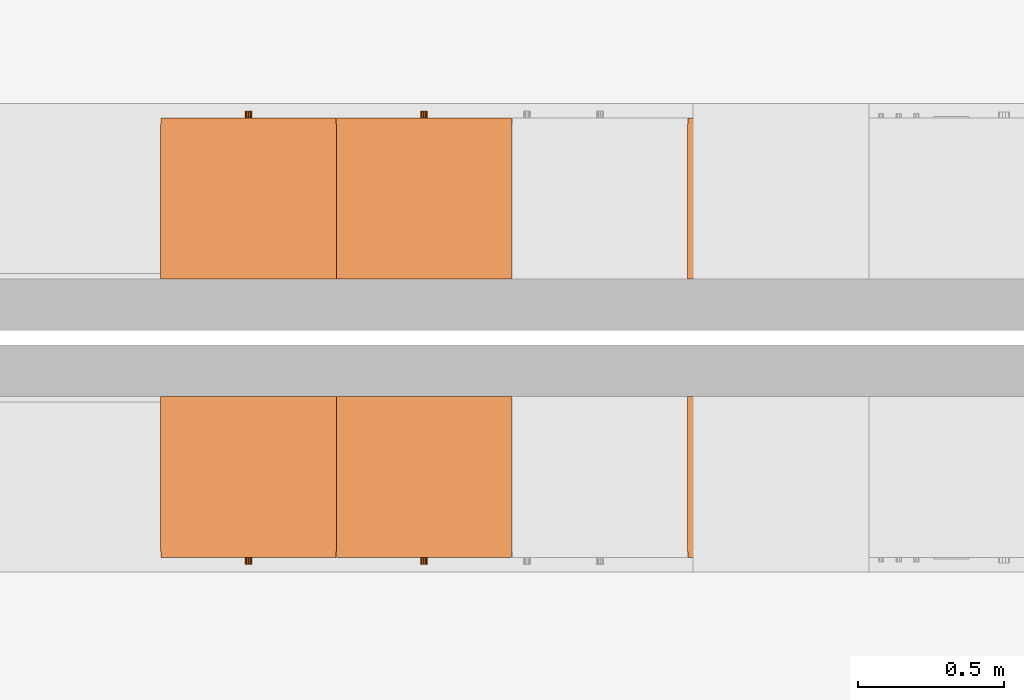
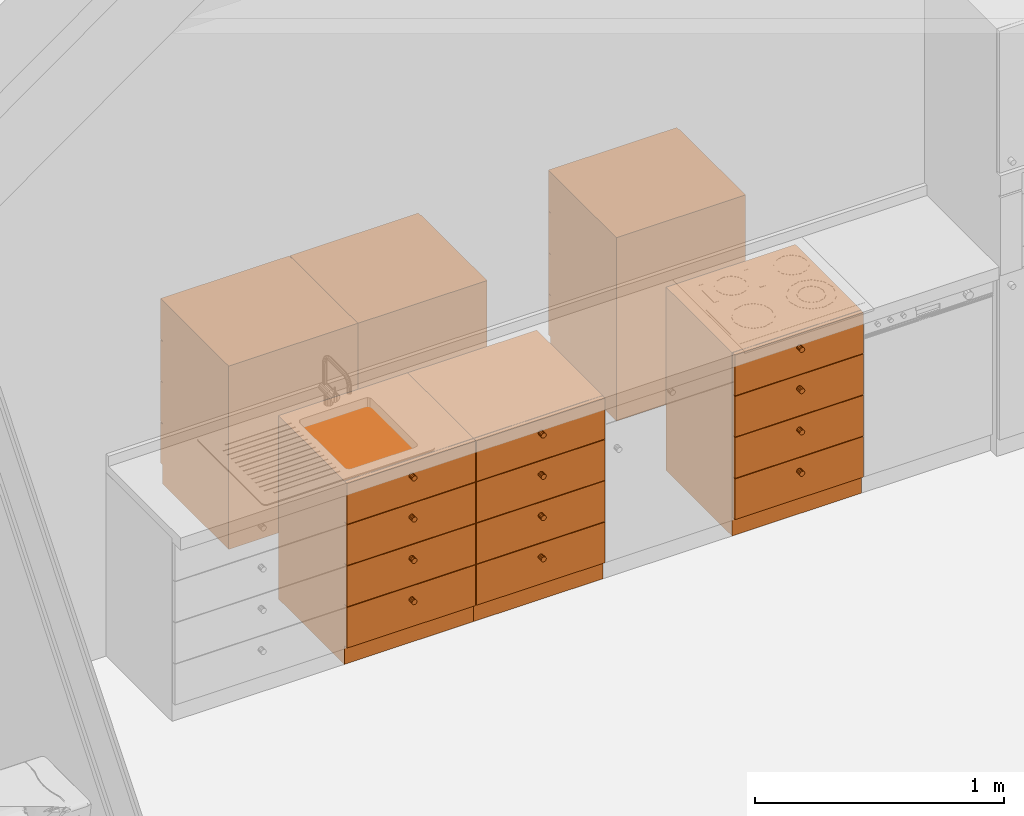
# One storey, part 14 of 28: 6 proxies.
"""IFC4 building model written with IfcOpenShell, lengths in metres."""

import ifcopenshell
import ifcopenshell.guid

model = None  # the IFC model being written
_history = None  # IfcOwnerHistory: only IFC2X3 demands one
_inside = {}  # id of a spatial element -> (the spatial element, [elements in it])
_under = {}  # id of a project, library or spatial element -> (it, [spatial elements below it])
_declared = {}  # id of a project -> (the project, [libraries it declares])
_typed = {}  # id of a type object -> (the type object, [elements of that type])
_made_of = {}  # id of a material, layer set ... -> (it, [elements and type objects made of it])


def new_model(schema):
    """Start an empty IFC model of exactly this schema.

    Asked for "IFC4X3", IfcOpenShell would pick the latest addendum, in which some entities
    have other attributes; the version numbers below select the first issue.
    IFC2X3 requires an IfcOwnerHistory on every rooted entity: one is made here for all.
    """
    global model, _history
    if schema == "IFC4X3":
        model = ifcopenshell.file(schema_version=(4, 3, 0, 0))
    else:
        model = ifcopenshell.file(schema=schema)
    _inside.clear()
    _under.clear()
    _declared.clear()
    _typed.clear()
    _made_of.clear()
    _history = None
    if model.schema == "IFC2X3":
        org = make("IfcOrganization", Name="unknown")
        user = make(
            "IfcPersonAndOrganization",
            ThePerson=make("IfcPerson", FamilyName="unknown"),
            TheOrganization=org,
        )
        app = make(
            "IfcApplication",
            ApplicationDeveloper=org,
            Version="unknown",
            ApplicationFullName="unknown",
            ApplicationIdentifier="unknown",
        )
        _history = make(
            "IfcOwnerHistory",
            OwningUser=user,
            OwningApplication=app,
            ChangeAction="ADDED",
            CreationDate=0,
        )
    return model


def make(cls, **values):
    """One entity of the class cls with the attributes given. An attribute that is None is left unset."""
    return model.create_entity(
        cls, **{name: value for name, value in values.items() if value is not None}
    )


def entity(cls, *values):
    """Any entity or typed value of the class cls, its attributes in the order of the schema. None: left unset."""
    e = model.create_entity(cls)
    for i, value in enumerate(values):
        if value is not None:
            e[i] = value
    return e


def rooted(cls, **values):
    """An entity with a GlobalId (a new one), such as an element, a storey or a relation."""
    return make(cls, GlobalId=ifcopenshell.guid.new(), OwnerHistory=_history, **values)


def si_unit(unit_type, name, prefix=None):
    """IfcSIUnit, for example si_unit("LENGTHUNIT", "METRE", prefix="MILLI")."""
    return make("IfcSIUnit", UnitType=unit_type, Prefix=prefix, Name=name)


def converted_unit(unit_type, name, factor, base, dimensions=None, offset=None):
    """IfcConversionBasedUnit, such as the inch: factor (a typed value) times the base unit."""
    return make(
        "IfcConversionBasedUnit"
        if offset is None
        else "IfcConversionBasedUnitWithOffset",
        ConversionOffset=offset,
        Dimensions=None
        if dimensions is None
        else entity("IfcDimensionalExponents", *dimensions),
        UnitType=unit_type,
        Name=name,
        ConversionFactor=make(
            "IfcMeasureWithUnit", ValueComponent=factor, UnitComponent=base
        ),
    )


def derived_unit(unit_type, elements):
    """IfcDerivedUnit: a product of units, each with its exponent."""
    return make(
        "IfcDerivedUnit",
        Elements=[
            make("IfcDerivedUnitElement", Unit=unit, Exponent=power)
            for unit, power in elements
        ],
        UnitType=unit_type,
    )


def assignment(units):
    """IfcUnitAssignment: the units of a project."""
    return None if units is None else make("IfcUnitAssignment", Units=units)


def point(xyz):
    """IfcCartesianPoint."""
    return None if xyz is None else make("IfcCartesianPoint", Coordinates=xyz)


def direction(xyz):
    """IfcDirection."""
    return None if xyz is None else make("IfcDirection", DirectionRatios=xyz)


def frame(location, z_axis=None, x_axis=None):
    """IfcAxis2Placement3D, a coordinate frame: its origin and axes. An axis left out is left unset."""
    return make(
        "IfcAxis2Placement3D",
        Location=point(location),
        Axis=direction(z_axis),
        RefDirection=direction(x_axis),
    )


def origin_with_axes():
    """The frame at (0, 0, 0) with the z axis (0, 0, 1) and the x axis (1, 0, 0) written out."""
    return frame((0.0, 0.0, 0.0), z_axis=(0.0, 0.0, 1.0), x_axis=(1.0, 0.0, 0.0))


def place(relative_to, where):
    """IfcLocalPlacement: puts the frame where relative to a parent placement (None: the world)."""
    return make(
        "IfcLocalPlacement", PlacementRelTo=relative_to, RelativePlacement=where
    )


def context(
    kind, dimensions, precision=None, world=None, true_north=None, identifier=None
):
    """IfcGeometricRepresentationContext, for example the 3D "Model" context."""
    return make(
        "IfcGeometricRepresentationContext",
        ContextIdentifier=identifier,
        ContextType=kind,
        CoordinateSpaceDimension=dimensions,
        Precision=precision,
        WorldCoordinateSystem=world,
        TrueNorth=true_north,
    )


def subcontext(parent, identifier, kind, view, scale=None):
    """IfcGeometricRepresentationSubContext, for example "Body" below "Model"."""
    return make(
        "IfcGeometricRepresentationSubContext",
        ContextIdentifier=identifier,
        ContextType=kind,
        ParentContext=parent,
        TargetScale=scale,
        TargetView=view,
    )


def project(units=None, contexts=None):
    """IfcProject with its units and contexts."""
    return rooted(
        "IfcProject",
        Name="project",
        RepresentationContexts=contexts,
        UnitsInContext=assignment(units),
    )


def spatial(cls, under=None, at=None, **own):
    """A site, building, storey or space (cls), placed at a placement, below another one or the project."""
    s = rooted(cls, ObjectPlacement=at, **own)
    if under is not None:
        _under.setdefault(under.id(), (under, []))[1].append(s)
    return s


def point_list(points):
    """IfcCartesianPointList2D or 3D."""
    cls = (
        "IfcCartesianPointList2D" if len(points[0]) == 2 else "IfcCartesianPointList3D"
    )
    return make(cls, CoordList=points)


def triangles(points, corners, closed=None, point_numbers=None):
    """IfcTriangulatedFaceSet: each triangle names its three corners, points numbered from 1."""
    return make(
        "IfcTriangulatedFaceSet",
        Coordinates=point_list(points),
        Closed=closed,
        CoordIndex=corners,
        PnIndex=point_numbers,
    )


def shape(context_of_items, identifier, shape_type, items):
    """IfcShapeRepresentation: the items that make up one representation, for example the "Body"."""
    return make(
        "IfcShapeRepresentation",
        ContextOfItems=context_of_items,
        RepresentationIdentifier=identifier,
        RepresentationType=shape_type,
        Items=items,
    )


def source(mapping_origin, context_of_items, identifier, shape_type, items):
    """IfcRepresentationMap: a shape defined once, which mapped items show again and again."""
    return make(
        "IfcRepresentationMap",
        MappingOrigin=mapping_origin,
        MappedRepresentation=shape(context_of_items, identifier, shape_type, items),
    )


def transform(
    local_origin,
    x_axis=None,
    y_axis=None,
    z_axis=None,
    scale=None,
    scale2=None,
    scale3=None,
    uniform=True,
):
    """IfcCartesianTransformationOperator3D, or its non-uniform kind. x_axis, y_axis, z_axis: its Axis1, 2, 3."""
    if uniform:
        return make(
            "IfcCartesianTransformationOperator3D",
            Axis1=direction(x_axis),
            Axis2=direction(y_axis),
            LocalOrigin=point(local_origin),
            Scale=scale,
            Axis3=direction(z_axis),
        )
    return make(
        "IfcCartesianTransformationOperator3DnonUniform",
        Axis1=direction(x_axis),
        Axis2=direction(y_axis),
        LocalOrigin=point(local_origin),
        Scale=scale,
        Axis3=direction(z_axis),
        Scale2=scale2,
        Scale3=scale3,
    )


def mapped(mapping_source, mapping_target):
    """IfcMappedItem: shows the shape of a source again, moved by a transform."""
    return make(
        "IfcMappedItem", MappingSource=mapping_source, MappingTarget=mapping_target
    )


def made_of(thing, what):
    """Note that an element or type object is made of a material, layer set ...; save() writes the relation."""
    if what is not None:
        _made_of.setdefault(what.id(), (what, []))[1].append(thing)
    return thing


def type_object(cls, material=None, **own):
    """A type object (cls), such as IfcWallType, which elements share."""
    return made_of(rooted(cls, **own), material)


def element(
    cls,
    number,
    at=None,
    inside=None,
    cuts=None,
    type_object=None,
    material=None,
    context=None,
    identifier="Body",
    shape_type=None,
    held_by="IfcProductDefinitionShape",
    body=None,
    shapes=None,
    **own,
):
    """One element of the class cls, such as IfcWall. Its Tag is "e" and its number.

    at: its placement. inside: the storey or other place that contains it. cuts: it is an
    opening in that element (IfcRelVoidsElement). A single representation is given by context,
    identifier, shape_type and body (its items); several are given by shapes. held_by: the class
    of the entity that holds the representations. save() writes the other relations.
    """
    e = rooted(cls, Tag="e%d" % number, ObjectPlacement=at, **own)
    if body is not None:
        shapes = [shape(context, identifier, shape_type, body)]
    if shapes is not None:
        e.Representation = make(held_by, Representations=shapes)
    if inside is not None:
        _inside.setdefault(inside.id(), (inside, []))[1].append(e)
    if cuts is not None:
        rooted(
            "IfcRelVoidsElement", RelatingBuildingElement=cuts, RelatedOpeningElement=e
        )
    if type_object is not None:
        _typed.setdefault(type_object.id(), (type_object, []))[1].append(e)
    return made_of(e, material)


def aggregate(whole, parts):
    """IfcRelAggregates: a whole, such as a stair, and the parts it consists of."""
    return rooted("IfcRelAggregates", RelatingObject=whole, RelatedObjects=parts)


def save(model, path):
    """Write the relations noted so far, then the file.

    IfcRelAggregates (storeys below a building ...), IfcRelContainedInSpatialStructure (elements
    in a storey), IfcRelDefinesByType, IfcRelAssociatesMaterial and IfcRelDeclares: one each for
    every whole, place, type object, material and project.
    """
    for whole, parts in _under.values():
        aggregate(whole, parts)
    for where, things in _inside.values():
        rooted(
            "IfcRelContainedInSpatialStructure",
            RelatedElements=things,
            RelatingStructure=where,
        )
    for kind, things in _typed.values():
        rooted("IfcRelDefinesByType", RelatedObjects=things, RelatingType=kind)
    for what, things in _made_of.values():
        rooted("IfcRelAssociatesMaterial", RelatedObjects=things, RelatingMaterial=what)
    for by, libraries in _declared.values():
        rooted("IfcRelDeclares", RelatingContext=by, RelatedDefinitions=libraries)
    model.write(path)


model = new_model("IFC4")

# Units and contexts
model_context = context("Model", 3, precision=1e-05, world=origin_with_axes(), true_north=direction((-0.526213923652, 0.850352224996)))
body_context = subcontext(model_context, "Body", "Model", "MODEL_VIEW")
ifc_project = project(units=[si_unit("LENGTHUNIT", "METRE"), si_unit("AREAUNIT", "SQUARE_METRE"), si_unit("VOLUMEUNIT", "CUBIC_METRE"), converted_unit("PLANEANGLEUNIT", "DEGREE", entity("IfcPlaneAngleMeasure", 0.0174532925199), si_unit("PLANEANGLEUNIT", "RADIAN"), dimensions=[0, 0, 0, 0, 0, 0, 0]), si_unit("SOLIDANGLEUNIT", "STERADIAN"), converted_unit("TIMEUNIT", "Year", entity("IfcTimeMeasure", 31556926.0), si_unit("TIMEUNIT", "SECOND"), dimensions=[0, 0, 1, 0, 0, 0, 0]), si_unit("MASSUNIT", "GRAM", prefix="KILO"), si_unit("THERMODYNAMICTEMPERATUREUNIT", "DEGREE_CELSIUS"), si_unit("LUMINOUSINTENSITYUNIT", "LUMEN"), si_unit("ENERGYUNIT", "JOULE", prefix="MEGA"), derived_unit("THERMALCONDUCTANCEUNIT", [(si_unit("POWERUNIT", "WATT"), 1), (si_unit("LENGTHUNIT", "METRE"), -1), (si_unit("THERMODYNAMICTEMPERATUREUNIT", "KELVIN"), -1)]), derived_unit("SPECIFICHEATCAPACITYUNIT", [(si_unit("ENERGYUNIT", "JOULE"), 1), (si_unit("MASSUNIT", "GRAM", prefix="KILO"), -1), (si_unit("THERMODYNAMICTEMPERATUREUNIT", "KELVIN"), -1)]), derived_unit("MASSDENSITYUNIT", [(si_unit("MASSUNIT", "GRAM", prefix="KILO"), 1), (si_unit("VOLUMEUNIT", "CUBIC_METRE"), -1)])], contexts=[model_context])

# Site, building, storey, space
site_placement = place(None, origin_with_axes())
site = spatial("IfcSite", under=ifc_project, at=site_placement, Name="Gelände", CompositionType="ELEMENT")
building_placement = place(site_placement, origin_with_axes())
building = spatial("IfcBuilding", under=site, at=building_placement, Name="Haus vom Nikolaus", CompositionType="ELEMENT")
storey_placement = place(building_placement, origin_with_axes())
storey = spatial("IfcBuildingStorey", under=building, at=storey_placement, Name="EG", CompositionType="ELEMENT", Elevation=0.0)
space_placement = place(storey_placement, frame((-3.09538684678, 5.36483190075, 0.0), z_axis=(0.0, 0.0, 1.0), x_axis=(1.0, 0.0, 0.0)))
space = spatial("IfcSpace", under=storey, at=space_placement, Name="EG", CompositionType="ELEMENT")

# Proxies
building_element_proxy_type = type_object("IfcBuildingElementProxyType", Name="Unterschrank Mehrfach-Schublade 22", PredefinedType="NOTDEFINED")
shared_shape_1 = source(origin_with_axes(), body_context, "Body", "Tessellation", [
    triangles([(-0.5985, 0.05, 0.0915), (-0.0015, 0.07, 0.0915), (-0.0015, 0.05, 0.0915), (-0.5985, 0.07, 0.0915), (-0.0015, 0.07, 0.291), (-0.0015, 0.05, 0.291), (-0.5985, 0.05, 0.291), (-0.5985, 0.07, 0.291)], [[1, 2, 3], [1, 4, 2], [3, 5, 6], [3, 2, 5], [7, 3, 6], [7, 1, 3], [7, 4, 1], [7, 8, 4], [8, 2, 4], [8, 5, 2], [6, 8, 7], [6, 5, 8]], closed=True),
    triangles([(-0.291514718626, 0.05, 0.219014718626), (-0.304592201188, 0.05, 0.23858655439), (-0.3, 0.05, 0.2395), (-0.31108655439, 0.05, 0.222907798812), (-0.304592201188, 0.05, 0.21641344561), (-0.308485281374, 0.05, 0.219014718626), (-0.295407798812, 0.05, 0.21641344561), (-0.3, 0.05, 0.2155), (-0.31108655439, 0.05, 0.232092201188), (-0.312, 0.05, 0.2275), (-0.28891344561, 0.05, 0.232092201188), (-0.291514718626, 0.05, 0.235985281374), (-0.308485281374, 0.05, 0.235985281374), (-0.295407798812, 0.05, 0.23858655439), (-0.28891344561, 0.05, 0.222907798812), (-0.288, 0.05, 0.2275), (-0.3, 0.025, 0.2155), (-0.295407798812, 0.025, 0.21641344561), (-0.304592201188, 0.025, 0.21641344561), (-0.308485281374, 0.025, 0.219014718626), (-0.31108655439, 0.025, 0.222907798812), (-0.312, 0.025, 0.2275), (-0.31108655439, 0.025, 0.232092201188), (-0.308485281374, 0.025, 0.235985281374), (-0.304592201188, 0.025, 0.23858655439), (-0.3, 0.025, 0.2395), (-0.295407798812, 0.025, 0.23858655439), (-0.291514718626, 0.025, 0.235985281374), (-0.28891344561, 0.025, 0.232092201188), (-0.288, 0.025, 0.2275), (-0.28891344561, 0.025, 0.222907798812), (-0.291514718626, 0.025, 0.219014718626)], [[1, 2, 3], [4, 5, 6], [5, 7, 8], [9, 4, 10], [4, 9, 5], [2, 5, 9], [11, 3, 12], [2, 9, 13], [12, 3, 14], [1, 3, 11], [15, 11, 16], [1, 11, 15], [2, 1, 5], [5, 1, 7], [17, 7, 18], [17, 8, 7], [5, 17, 19], [17, 5, 8], [6, 19, 20], [19, 6, 5], [21, 6, 20], [21, 4, 6], [22, 4, 21], [22, 10, 4], [23, 10, 22], [23, 9, 10], [24, 9, 23], [24, 13, 9], [25, 13, 24], [25, 2, 13], [26, 2, 25], [26, 3, 2], [27, 3, 26], [27, 14, 3], [28, 14, 27], [28, 12, 14], [29, 12, 28], [29, 11, 12], [30, 11, 29], [30, 16, 11], [31, 16, 30], [31, 15, 16], [32, 15, 31], [32, 1, 15], [18, 1, 32], [18, 7, 1], [23, 26, 24], [29, 31, 30], [23, 17, 31], [27, 29, 28], [29, 27, 31], [23, 27, 26], [27, 23, 31], [24, 26, 25], [22, 17, 23], [21, 17, 22], [19, 21, 20], [17, 21, 19], [31, 17, 32], [32, 17, 18]], closed=True),
    triangles([(-0.5985, 0.05, 0.294), (-0.0015, 0.07, 0.294), (-0.0015, 0.05, 0.294), (-0.5985, 0.07, 0.294), (-0.0015, 0.07, 0.4935), (-0.0015, 0.05, 0.4935), (-0.5985, 0.05, 0.4935), (-0.5985, 0.07, 0.4935)], [[1, 2, 3], [1, 4, 2], [3, 5, 6], [3, 2, 5], [7, 3, 6], [7, 1, 3], [7, 4, 1], [7, 8, 4], [8, 2, 4], [8, 5, 2], [6, 8, 7], [6, 5, 8]], closed=True),
    triangles([(-0.28891344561, 0.05, 0.434592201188), (-0.304592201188, 0.05, 0.44108655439), (-0.3, 0.05, 0.442), (-0.31108655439, 0.05, 0.425407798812), (-0.304592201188, 0.05, 0.41891344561), (-0.308485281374, 0.05, 0.421514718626), (-0.295407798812, 0.05, 0.41891344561), (-0.3, 0.05, 0.418), (-0.291514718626, 0.05, 0.421514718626), (-0.31108655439, 0.05, 0.434592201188), (-0.312, 0.05, 0.43), (-0.308485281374, 0.05, 0.438485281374), (-0.295407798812, 0.05, 0.44108655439), (-0.291514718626, 0.05, 0.438485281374), (-0.28891344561, 0.05, 0.425407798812), (-0.288, 0.05, 0.43), (-0.3, 0.025, 0.418), (-0.295407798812, 0.025, 0.41891344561), (-0.304592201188, 0.025, 0.41891344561), (-0.308485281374, 0.025, 0.421514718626), (-0.31108655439, 0.025, 0.425407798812), (-0.312, 0.025, 0.43), (-0.31108655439, 0.025, 0.434592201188), (-0.308485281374, 0.025, 0.438485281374), (-0.304592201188, 0.025, 0.44108655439), (-0.3, 0.025, 0.442), (-0.295407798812, 0.025, 0.44108655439), (-0.291514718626, 0.025, 0.438485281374), (-0.28891344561, 0.025, 0.434592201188), (-0.288, 0.025, 0.43), (-0.28891344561, 0.025, 0.425407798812), (-0.291514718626, 0.025, 0.421514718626)], [[1, 2, 3], [4, 5, 6], [5, 7, 8], [9, 4, 1], [10, 4, 11], [12, 4, 10], [2, 1, 12], [1, 3, 13], [12, 1, 4], [1, 13, 14], [15, 1, 16], [4, 9, 5], [9, 1, 15], [5, 9, 7], [17, 7, 18], [17, 8, 7], [5, 17, 19], [17, 5, 8], [6, 19, 20], [19, 6, 5], [21, 6, 20], [21, 4, 6], [22, 4, 21], [22, 11, 4], [23, 11, 22], [23, 10, 11], [24, 10, 23], [24, 12, 10], [25, 12, 24], [25, 2, 12], [26, 2, 25], [26, 3, 2], [27, 3, 26], [27, 13, 3], [28, 13, 27], [28, 14, 13], [29, 14, 28], [29, 1, 14], [30, 1, 29], [30, 16, 1], [31, 16, 30], [31, 15, 16], [32, 15, 31], [32, 9, 15], [18, 9, 32], [18, 7, 9], [32, 25, 18], [25, 30, 27], [30, 32, 31], [27, 29, 28], [29, 27, 30], [30, 25, 32], [23, 25, 24], [25, 27, 26], [21, 23, 22], [23, 21, 25], [19, 21, 20], [25, 21, 18], [21, 19, 18], [17, 18, 19]], closed=True),
    triangles([(-0.58, 0.07, 0.3125), (-0.02, 0.07, 0.2925), (-0.02, 0.07, 0.3125), (-0.58, 0.07, 0.2925), (-0.02, 0.58, 0.2925), (-0.02, 0.58, 0.3125), (-0.58, 0.58, 0.3125), (-0.58, 0.58, 0.2925)], [[1, 2, 3], [1, 4, 2], [3, 5, 6], [3, 2, 5], [7, 3, 6], [7, 1, 3], [7, 4, 1], [7, 8, 4], [8, 2, 4], [8, 5, 2], [6, 8, 7], [6, 5, 8]], closed=True),
    triangles([(-0.5985, 0.05, 0.4965), (-0.0015, 0.07, 0.4965), (-0.0015, 0.05, 0.4965), (-0.5985, 0.07, 0.4965), (-0.0015, 0.07, 0.696), (-0.0015, 0.05, 0.696), (-0.5985, 0.05, 0.696), (-0.5985, 0.07, 0.696)], [[1, 2, 3], [1, 4, 2], [3, 5, 6], [3, 2, 5], [7, 3, 6], [7, 1, 3], [7, 4, 1], [7, 8, 4], [8, 2, 4], [8, 5, 2], [6, 8, 7], [6, 5, 8]], closed=True),
    triangles([(-0.291514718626, 0.05, 0.624014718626), (-0.304592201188, 0.05, 0.64358655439), (-0.295407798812, 0.05, 0.64358655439), (-0.31108655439, 0.05, 0.627907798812), (-0.312, 0.05, 0.6325), (-0.308485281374, 0.05, 0.624014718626), (-0.304592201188, 0.05, 0.62141344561), (-0.31108655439, 0.05, 0.637092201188), (-0.308485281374, 0.05, 0.640985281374), (-0.3, 0.05, 0.6445), (-0.288, 0.05, 0.6325), (-0.28891344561, 0.05, 0.627907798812), (-0.28891344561, 0.05, 0.637092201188), (-0.291514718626, 0.05, 0.640985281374), (-0.3, 0.05, 0.6205), (-0.295407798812, 0.05, 0.62141344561), (-0.3, 0.025, 0.6205), (-0.295407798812, 0.025, 0.62141344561), (-0.304592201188, 0.025, 0.62141344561), (-0.308485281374, 0.025, 0.624014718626), (-0.31108655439, 0.025, 0.627907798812), (-0.312, 0.025, 0.6325), (-0.31108655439, 0.025, 0.637092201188), (-0.308485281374, 0.025, 0.640985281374), (-0.304592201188, 0.025, 0.64358655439), (-0.3, 0.025, 0.6445), (-0.295407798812, 0.025, 0.64358655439), (-0.291514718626, 0.025, 0.640985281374), (-0.28891344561, 0.025, 0.637092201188), (-0.288, 0.025, 0.6325), (-0.28891344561, 0.025, 0.627907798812), (-0.291514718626, 0.025, 0.624014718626)], [[1, 2, 3], [2, 4, 5], [2, 6, 4], [6, 2, 7], [2, 8, 9], [8, 2, 5], [3, 2, 10], [1, 7, 2], [1, 11, 12], [13, 3, 14], [11, 1, 3], [11, 3, 13], [7, 1, 15], [15, 1, 16], [17, 16, 18], [17, 15, 16], [7, 17, 19], [17, 7, 15], [20, 7, 19], [20, 6, 7], [21, 6, 20], [21, 4, 6], [22, 4, 21], [22, 5, 4], [23, 5, 22], [23, 8, 5], [24, 8, 23], [24, 9, 8], [25, 9, 24], [25, 2, 9], [26, 2, 25], [26, 10, 2], [27, 10, 26], [27, 3, 10], [28, 3, 27], [28, 14, 3], [29, 14, 28], [29, 13, 14], [30, 13, 29], [30, 11, 13], [31, 11, 30], [31, 12, 11], [32, 12, 31], [32, 1, 12], [18, 1, 32], [18, 16, 1], [27, 25, 18], [30, 18, 31], [31, 18, 32], [27, 29, 28], [29, 27, 30], [30, 27, 18], [23, 25, 24], [25, 27, 26], [21, 25, 23], [21, 23, 22], [19, 21, 20], [19, 25, 21], [25, 19, 18], [17, 18, 19]], closed=True),
    triangles([(-0.58, 0.07, 0.515), (-0.02, 0.07, 0.495), (-0.02, 0.07, 0.515), (-0.58, 0.07, 0.495), (-0.02, 0.58, 0.495), (-0.02, 0.58, 0.515), (-0.58, 0.58, 0.515), (-0.58, 0.58, 0.495)], [[1, 2, 3], [1, 4, 2], [3, 5, 6], [3, 2, 5], [7, 3, 6], [7, 1, 3], [7, 4, 1], [7, 8, 4], [8, 2, 4], [8, 5, 2], [6, 8, 7], [6, 5, 8]], closed=True),
    triangles([(-0.5985, 0.05, 0.699), (-0.0015, 0.07, 0.699), (-0.0015, 0.05, 0.699), (-0.5985, 0.07, 0.699), (-0.0015, 0.07, 0.8985), (-0.0015, 0.05, 0.8985), (-0.5985, 0.05, 0.8985), (-0.5985, 0.07, 0.8985)], [[1, 2, 3], [1, 4, 2], [3, 5, 6], [3, 2, 5], [7, 3, 6], [7, 1, 3], [7, 4, 1], [7, 8, 4], [8, 2, 4], [8, 5, 2], [6, 8, 7], [6, 5, 8]], closed=True),
    triangles([(-0.295407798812, 0.05, 0.84608655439), (-0.304592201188, 0.05, 0.82391344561), (-0.304592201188, 0.05, 0.84608655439), (-0.31108655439, 0.05, 0.830407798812), (-0.308485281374, 0.05, 0.826514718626), (-0.295407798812, 0.05, 0.82391344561), (-0.3, 0.05, 0.823), (-0.312, 0.05, 0.835), (-0.31108655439, 0.05, 0.839592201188), (-0.308485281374, 0.05, 0.843485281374), (-0.3, 0.05, 0.847), (-0.28891344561, 0.05, 0.839592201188), (-0.291514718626, 0.05, 0.843485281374), (-0.291514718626, 0.05, 0.826514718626), (-0.288, 0.05, 0.835), (-0.28891344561, 0.05, 0.830407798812), (-0.3, 0.025, 0.823), (-0.295407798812, 0.025, 0.82391344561), (-0.304592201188, 0.025, 0.82391344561), (-0.308485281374, 0.025, 0.826514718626), (-0.31108655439, 0.025, 0.830407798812), (-0.312, 0.025, 0.835), (-0.31108655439, 0.025, 0.839592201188), (-0.308485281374, 0.025, 0.843485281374), (-0.304592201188, 0.025, 0.84608655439), (-0.3, 0.025, 0.847), (-0.295407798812, 0.025, 0.84608655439), (-0.291514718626, 0.025, 0.843485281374), (-0.28891344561, 0.025, 0.839592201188), (-0.288, 0.025, 0.835), (-0.28891344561, 0.025, 0.830407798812), (-0.291514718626, 0.025, 0.826514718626)], [[1, 2, 3], [4, 2, 5], [2, 6, 7], [3, 4, 8], [3, 9, 10], [9, 3, 8], [1, 3, 11], [4, 3, 2], [2, 1, 6], [12, 1, 13], [14, 1, 15], [15, 1, 12], [14, 15, 16], [1, 14, 6], [17, 6, 18], [17, 7, 6], [2, 17, 19], [17, 2, 7], [5, 19, 20], [19, 5, 2], [21, 5, 20], [21, 4, 5], [22, 4, 21], [22, 8, 4], [23, 8, 22], [23, 9, 8], [24, 9, 23], [24, 10, 9], [25, 10, 24], [25, 3, 10], [26, 3, 25], [26, 11, 3], [27, 11, 26], [27, 1, 11], [28, 1, 27], [28, 13, 1], [29, 13, 28], [29, 12, 13], [30, 12, 29], [30, 15, 12], [31, 15, 30], [31, 16, 15], [32, 16, 31], [32, 14, 16], [18, 14, 32], [18, 6, 14], [19, 30, 25], [19, 32, 30], [30, 32, 31], [28, 30, 29], [27, 30, 28], [25, 30, 27], [23, 25, 24], [25, 27, 26], [19, 25, 23], [21, 23, 22], [19, 21, 20], [19, 23, 21], [32, 19, 18], [17, 18, 19]], closed=True),
    triangles([(-0.58, 0.07, 0.7175), (-0.02, 0.07, 0.6975), (-0.02, 0.07, 0.7175), (-0.58, 0.07, 0.6975), (-0.02, 0.58, 0.6975), (-0.02, 0.58, 0.7175), (-0.58, 0.58, 0.7175), (-0.58, 0.58, 0.6975)], [[1, 2, 3], [1, 4, 2], [3, 5, 6], [3, 2, 5], [7, 3, 6], [7, 1, 3], [7, 4, 1], [7, 8, 4], [8, 2, 4], [8, 5, 2], [6, 8, 7], [6, 5, 8]], closed=True),
    triangles([(-0.6, 0.07, 0.09), (0.0, 0.07, 0.0), (0.0, 0.07, 0.09), (-0.6, 0.07, 0.0), (0.0, 0.6, 0.0), (0.0, 0.6, 0.09), (-0.6, 0.6, 0.09), (-0.6, 0.6, 0.0)], [[1, 2, 3], [1, 4, 2], [3, 5, 6], [3, 2, 5], [7, 3, 6], [7, 1, 3], [7, 4, 1], [7, 8, 4], [8, 2, 4], [8, 5, 2], [6, 8, 7], [6, 5, 8]], closed=True),
    triangles([(-0.02, 0.07, 0.9), (0.0, 0.07, 0.88), (0.0, 0.07, 0.9), (-0.02, 0.07, 0.88), (0.0, 0.6, 0.88), (0.0, 0.6, 0.9), (-0.02, 0.6, 0.9), (-0.58, 0.07, 0.9), (-0.58, 0.6, 0.9), (-0.6, 0.07, 0.9), (-0.6, 0.6, 0.9), (-0.58, 0.07, 0.88), (-0.02, 0.6, 0.88), (-0.58, 0.6, 0.88), (-0.6, 0.6, 0.88), (-0.6, 0.07, 0.88)], [[1, 2, 3], [1, 4, 2], [3, 5, 6], [3, 2, 5], [1, 3, 7], [8, 7, 9], [7, 3, 6], [10, 9, 11], [8, 9, 10], [1, 7, 8], [8, 4, 1], [8, 12, 4], [5, 2, 13], [14, 12, 15], [12, 14, 4], [15, 12, 16], [4, 13, 2], [13, 4, 14], [6, 13, 7], [6, 5, 13], [7, 14, 9], [7, 13, 14], [9, 15, 11], [9, 14, 15], [11, 16, 10], [11, 15, 16], [10, 12, 8], [10, 16, 12]], closed=True),
    triangles([(-0.02, 0.07, 0.11), (0.0, 0.07, 0.09), (0.0, 0.07, 0.11), (-0.02, 0.07, 0.09), (0.0, 0.6, 0.09), (0.0, 0.6, 0.11), (-0.02, 0.6, 0.11), (-0.58, 0.07, 0.11), (-0.58, 0.6, 0.11), (-0.6, 0.07, 0.11), (-0.6, 0.6, 0.11), (-0.58, 0.07, 0.09), (-0.02, 0.6, 0.09), (-0.58, 0.6, 0.09), (-0.6, 0.6, 0.09), (-0.6, 0.07, 0.09)], [[1, 2, 3], [1, 4, 2], [3, 5, 6], [3, 2, 5], [1, 3, 7], [8, 7, 9], [7, 3, 6], [10, 9, 11], [8, 9, 10], [1, 7, 8], [8, 4, 1], [8, 12, 4], [5, 2, 13], [14, 12, 15], [12, 14, 4], [15, 12, 16], [4, 13, 2], [13, 4, 14], [6, 13, 7], [6, 5, 13], [7, 14, 9], [7, 13, 14], [9, 15, 11], [9, 14, 15], [11, 16, 10], [11, 15, 16], [10, 12, 8], [10, 16, 12]], closed=True),
    triangles([(-0.02, 0.07, 0.88), (0.0, 0.07, 0.11), (0.0, 0.07, 0.88), (-0.02, 0.07, 0.11), (0.0, 0.6, 0.11), (0.0, 0.6, 0.88), (-0.02, 0.58, 0.88), (-0.58, 0.58, 0.88), (-0.6, 0.07, 0.88), (-0.58, 0.07, 0.88), (-0.6, 0.6, 0.88), (-0.02, 0.58, 0.11), (-0.6, 0.6, 0.11), (-0.58, 0.58, 0.11), (-0.6, 0.07, 0.11), (-0.58, 0.07, 0.11)], [[1, 2, 3], [1, 4, 2], [3, 5, 6], [3, 2, 5], [1, 3, 7], [8, 9, 10], [8, 6, 11], [9, 8, 11], [7, 3, 6], [8, 7, 6], [7, 4, 1], [7, 12, 4], [5, 2, 12], [13, 5, 12], [12, 2, 4], [13, 12, 14], [15, 13, 14], [15, 14, 16], [6, 13, 11], [6, 5, 13], [11, 15, 9], [11, 13, 15], [9, 16, 10], [9, 15, 16], [10, 14, 8], [10, 16, 14], [8, 12, 7], [8, 14, 12]], closed=True),
])
for number, where, z_axis, x_axis, name in (
    (1, (11.1603844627, 1.27500017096, 0.2), (0.0, 0.0, 1.0), (1.0, 0.0, 0.0), "Küche-005"),
    (2, (12.3603844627, 1.27500017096, 0.2), (0.0, 0.0, 1.0), (1.0, 0.0, 0.0), "Küche-006"),
    (3, (10.5603844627, 1.27500017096, 0.2), (0.0, 0.0, 1.0), (1.0, 0.0, 0.0), "Küche-005"),
):
    element("IfcBuildingElementProxy", number, at=place(space_placement, frame(where, z_axis=z_axis, x_axis=x_axis)), inside=space, type_object=building_element_proxy_type, Name=name, PredefinedType="NOTDEFINED", context=body_context, shape_type="MappedRepresentation", body=[
        mapped(shared_shape_1, transform((0.0, 0.0, 0.0))),
    ])
shared_shape_2 = source(origin_with_axes(), body_context, "Body", "Tessellation", [
    triangles([(0.5985, 0.05, 0.0915), (0.0015, 0.07, 0.0915), (0.5985, 0.07, 0.0915), (0.0015, 0.05, 0.0915), (0.5985, 0.07, 0.291), (0.0015, 0.07, 0.291), (0.5985, 0.05, 0.291), (0.0015, 0.05, 0.291)], [[1, 2, 3], [1, 4, 2], [5, 2, 6], [5, 3, 2], [7, 3, 5], [7, 1, 3], [7, 4, 1], [7, 8, 4], [4, 6, 2], [4, 8, 6], [8, 5, 6], [8, 7, 5]], closed=True),
    triangles([(0.31108655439, 0.05, 0.232092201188), (0.3, 0.05, 0.2395), (0.308485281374, 0.05, 0.235985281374), (0.28891344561, 0.05, 0.232092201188), (0.28891344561, 0.05, 0.222907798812), (0.288, 0.05, 0.2275), (0.3, 0.05, 0.2155), (0.304592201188, 0.05, 0.21641344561), (0.291514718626, 0.05, 0.235985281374), (0.295407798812, 0.05, 0.23858655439), (0.304592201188, 0.05, 0.23858655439), (0.312, 0.05, 0.2275), (0.31108655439, 0.05, 0.222907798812), (0.308485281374, 0.05, 0.219014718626), (0.291514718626, 0.05, 0.219014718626), (0.295407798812, 0.05, 0.21641344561), (0.295407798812, 0.025, 0.21641344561), (0.291514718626, 0.025, 0.219014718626), (0.28891344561, 0.025, 0.222907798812), (0.288, 0.025, 0.2275), (0.28891344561, 0.025, 0.232092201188), (0.291514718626, 0.025, 0.235985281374), (0.295407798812, 0.025, 0.23858655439), (0.3, 0.025, 0.2395), (0.304592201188, 0.025, 0.23858655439), (0.308485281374, 0.025, 0.235985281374), (0.31108655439, 0.025, 0.232092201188), (0.312, 0.025, 0.2275), (0.31108655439, 0.025, 0.222907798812), (0.308485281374, 0.025, 0.219014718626), (0.304592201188, 0.025, 0.21641344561), (0.3, 0.025, 0.2155)], [[1, 2, 3], [4, 5, 6], [7, 5, 8], [2, 9, 10], [9, 2, 4], [4, 2, 5], [2, 1, 5], [3, 2, 11], [8, 5, 1], [8, 1, 12], [8, 13, 14], [8, 12, 13], [5, 7, 15], [15, 7, 16], [17, 15, 16], [17, 18, 15], [18, 5, 15], [18, 19, 5], [19, 6, 5], [19, 20, 6], [20, 4, 6], [20, 21, 4], [21, 9, 4], [21, 22, 9], [22, 10, 9], [22, 23, 10], [23, 2, 10], [23, 24, 2], [24, 11, 2], [24, 25, 11], [25, 3, 11], [25, 26, 3], [26, 1, 3], [26, 27, 1], [27, 12, 1], [27, 28, 12], [28, 13, 12], [28, 29, 13], [29, 14, 13], [29, 30, 14], [31, 14, 30], [14, 31, 8], [32, 8, 31], [8, 32, 7], [32, 16, 7], [32, 17, 16], [18, 21, 19], [18, 32, 30], [30, 32, 31], [18, 30, 29], [27, 29, 28], [18, 29, 27], [21, 24, 22], [25, 27, 26], [22, 24, 23], [18, 24, 21], [19, 21, 20], [24, 18, 25], [25, 18, 27], [32, 18, 17]], closed=True),
    triangles([(0.5985, 0.05, 0.294), (0.0015, 0.07, 0.294), (0.5985, 0.07, 0.294), (0.0015, 0.05, 0.294), (0.5985, 0.07, 0.4935), (0.0015, 0.07, 0.4935), (0.5985, 0.05, 0.4935), (0.0015, 0.05, 0.4935)], [[1, 2, 3], [1, 4, 2], [5, 2, 6], [5, 3, 2], [7, 3, 5], [7, 1, 3], [7, 4, 1], [7, 8, 4], [4, 6, 2], [4, 8, 6], [8, 5, 6], [8, 7, 5]], closed=True),
    triangles([(0.291514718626, 0.05, 0.421514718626), (0.304592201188, 0.05, 0.44108655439), (0.295407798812, 0.05, 0.41891344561), (0.295407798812, 0.05, 0.44108655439), (0.3, 0.05, 0.442), (0.288, 0.05, 0.43), (0.28891344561, 0.05, 0.425407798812), (0.28891344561, 0.05, 0.434592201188), (0.291514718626, 0.05, 0.438485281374), (0.31108655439, 0.05, 0.434592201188), (0.308485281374, 0.05, 0.438485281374), (0.31108655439, 0.05, 0.425407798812), (0.312, 0.05, 0.43), (0.304592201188, 0.05, 0.41891344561), (0.308485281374, 0.05, 0.421514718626), (0.3, 0.05, 0.418), (0.295407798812, 0.025, 0.41891344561), (0.291514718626, 0.025, 0.421514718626), (0.28891344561, 0.025, 0.425407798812), (0.288, 0.025, 0.43), (0.28891344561, 0.025, 0.434592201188), (0.291514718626, 0.025, 0.438485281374), (0.295407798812, 0.025, 0.44108655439), (0.3, 0.025, 0.442), (0.304592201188, 0.025, 0.44108655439), (0.308485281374, 0.025, 0.438485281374), (0.31108655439, 0.025, 0.434592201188), (0.312, 0.025, 0.43), (0.31108655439, 0.025, 0.425407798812), (0.308485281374, 0.025, 0.421514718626), (0.304592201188, 0.025, 0.41891344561), (0.3, 0.025, 0.418)], [[1, 2, 3], [2, 4, 5], [6, 1, 7], [4, 8, 9], [8, 4, 6], [4, 2, 6], [10, 2, 11], [6, 2, 1], [12, 10, 13], [10, 12, 2], [14, 12, 15], [2, 12, 3], [12, 14, 3], [16, 3, 14], [17, 1, 3], [17, 18, 1], [18, 7, 1], [18, 19, 7], [19, 6, 7], [19, 20, 6], [20, 8, 6], [20, 21, 8], [21, 9, 8], [21, 22, 9], [22, 4, 9], [22, 23, 4], [23, 5, 4], [23, 24, 5], [24, 2, 5], [24, 25, 2], [25, 11, 2], [25, 26, 11], [26, 10, 11], [26, 27, 10], [27, 13, 10], [27, 28, 13], [28, 12, 13], [28, 29, 12], [29, 15, 12], [29, 30, 15], [31, 15, 30], [15, 31, 14], [32, 14, 31], [14, 32, 16], [32, 3, 16], [32, 17, 3], [23, 25, 24], [29, 31, 30], [18, 31, 29], [31, 18, 32], [27, 29, 28], [26, 29, 27], [21, 26, 23], [25, 23, 26], [26, 21, 29], [21, 23, 22], [19, 21, 20], [18, 29, 21], [18, 21, 19], [32, 18, 17]], closed=True),
    triangles([(0.58, 0.07, 0.3125), (0.02, 0.07, 0.2925), (0.58, 0.07, 0.2925), (0.02, 0.07, 0.3125), (0.58, 0.58, 0.2925), (0.02, 0.58, 0.2925), (0.58, 0.58, 0.3125), (0.02, 0.58, 0.3125)], [[1, 2, 3], [1, 4, 2], [5, 2, 6], [5, 3, 2], [7, 3, 5], [7, 1, 3], [7, 4, 1], [7, 8, 4], [4, 6, 2], [4, 8, 6], [8, 5, 6], [8, 7, 5]], closed=True),
    triangles([(0.5985, 0.05, 0.4965), (0.0015, 0.07, 0.4965), (0.5985, 0.07, 0.4965), (0.0015, 0.05, 0.4965), (0.5985, 0.07, 0.696), (0.0015, 0.07, 0.696), (0.5985, 0.05, 0.696), (0.0015, 0.05, 0.696)], [[1, 2, 3], [1, 4, 2], [5, 2, 6], [5, 3, 2], [7, 3, 5], [7, 1, 3], [7, 4, 1], [7, 8, 4], [4, 6, 2], [4, 8, 6], [8, 5, 6], [8, 7, 5]], closed=True),
    triangles([(0.295407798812, 0.05, 0.64358655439), (0.304592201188, 0.05, 0.64358655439), (0.295407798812, 0.05, 0.62141344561), (0.288, 0.05, 0.6325), (0.28891344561, 0.05, 0.627907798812), (0.291514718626, 0.05, 0.624014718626), (0.28891344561, 0.05, 0.637092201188), (0.291514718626, 0.05, 0.640985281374), (0.31108655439, 0.05, 0.637092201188), (0.308485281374, 0.05, 0.640985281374), (0.3, 0.05, 0.6445), (0.31108655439, 0.05, 0.627907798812), (0.312, 0.05, 0.6325), (0.304592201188, 0.05, 0.62141344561), (0.308485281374, 0.05, 0.624014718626), (0.3, 0.05, 0.6205), (0.295407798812, 0.025, 0.62141344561), (0.291514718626, 0.025, 0.624014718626), (0.28891344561, 0.025, 0.627907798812), (0.288, 0.025, 0.6325), (0.28891344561, 0.025, 0.637092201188), (0.291514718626, 0.025, 0.640985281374), (0.295407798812, 0.025, 0.64358655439), (0.3, 0.025, 0.6445), (0.304592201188, 0.025, 0.64358655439), (0.308485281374, 0.025, 0.640985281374), (0.31108655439, 0.025, 0.637092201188), (0.312, 0.025, 0.6325), (0.31108655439, 0.025, 0.627907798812), (0.308485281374, 0.025, 0.624014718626), (0.304592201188, 0.025, 0.62141344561), (0.3, 0.025, 0.6205)], [[1, 2, 3], [4, 3, 5], [5, 3, 6], [1, 7, 8], [7, 1, 4], [4, 1, 3], [9, 2, 10], [2, 1, 11], [12, 2, 9], [12, 9, 13], [14, 12, 15], [14, 2, 12], [2, 14, 3], [16, 3, 14], [17, 6, 3], [17, 18, 6], [18, 5, 6], [18, 19, 5], [19, 4, 5], [19, 20, 4], [20, 7, 4], [20, 21, 7], [21, 8, 7], [21, 22, 8], [22, 1, 8], [22, 23, 1], [23, 11, 1], [23, 24, 11], [24, 2, 11], [24, 25, 2], [25, 10, 2], [25, 26, 10], [26, 9, 10], [26, 27, 9], [27, 13, 9], [27, 28, 13], [28, 12, 13], [28, 29, 12], [29, 15, 12], [29, 30, 15], [31, 15, 30], [15, 31, 14], [32, 14, 31], [14, 32, 16], [32, 3, 16], [32, 17, 3], [25, 18, 30], [25, 29, 28], [30, 32, 31], [29, 25, 30], [25, 27, 26], [27, 25, 28], [23, 25, 24], [18, 25, 23], [18, 20, 19], [21, 23, 22], [20, 18, 23], [20, 23, 21], [30, 18, 32], [32, 18, 17]], closed=True),
    triangles([(0.58, 0.07, 0.515), (0.02, 0.07, 0.495), (0.58, 0.07, 0.495), (0.02, 0.07, 0.515), (0.58, 0.58, 0.495), (0.02, 0.58, 0.495), (0.58, 0.58, 0.515), (0.02, 0.58, 0.515)], [[1, 2, 3], [1, 4, 2], [5, 2, 6], [5, 3, 2], [7, 3, 5], [7, 1, 3], [7, 4, 1], [7, 8, 4], [4, 6, 2], [4, 8, 6], [8, 5, 6], [8, 7, 5]], closed=True),
    triangles([(0.5985, 0.05, 0.699), (0.0015, 0.07, 0.699), (0.5985, 0.07, 0.699), (0.0015, 0.05, 0.699), (0.5985, 0.07, 0.8985), (0.0015, 0.07, 0.8985), (0.5985, 0.05, 0.8985), (0.0015, 0.05, 0.8985)], [[1, 2, 3], [1, 4, 2], [5, 2, 6], [5, 3, 2], [7, 3, 5], [7, 1, 3], [7, 4, 1], [7, 8, 4], [4, 6, 2], [4, 8, 6], [8, 5, 6], [8, 7, 5]], closed=True),
    triangles([(0.288, 0.05, 0.835), (0.304592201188, 0.05, 0.84608655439), (0.295407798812, 0.05, 0.82391344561), (0.291514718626, 0.05, 0.826514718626), (0.28891344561, 0.05, 0.830407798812), (0.291514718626, 0.05, 0.843485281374), (0.28891344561, 0.05, 0.839592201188), (0.295407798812, 0.05, 0.84608655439), (0.31108655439, 0.05, 0.839592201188), (0.308485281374, 0.05, 0.843485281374), (0.3, 0.05, 0.847), (0.31108655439, 0.05, 0.830407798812), (0.312, 0.05, 0.835), (0.304592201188, 0.05, 0.82391344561), (0.308485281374, 0.05, 0.826514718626), (0.3, 0.05, 0.823), (0.295407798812, 0.025, 0.82391344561), (0.291514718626, 0.025, 0.826514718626), (0.28891344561, 0.025, 0.830407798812), (0.288, 0.025, 0.835), (0.28891344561, 0.025, 0.839592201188), (0.291514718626, 0.025, 0.843485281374), (0.295407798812, 0.025, 0.84608655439), (0.3, 0.025, 0.847), (0.304592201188, 0.025, 0.84608655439), (0.308485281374, 0.025, 0.843485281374), (0.31108655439, 0.025, 0.839592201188), (0.312, 0.025, 0.835), (0.31108655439, 0.025, 0.830407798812), (0.308485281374, 0.025, 0.826514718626), (0.304592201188, 0.025, 0.82391344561), (0.3, 0.025, 0.823)], [[1, 2, 3], [4, 1, 3], [1, 4, 5], [6, 1, 7], [8, 1, 6], [2, 1, 8], [9, 2, 10], [2, 8, 11], [2, 9, 3], [12, 9, 13], [14, 12, 15], [9, 12, 3], [12, 14, 3], [16, 3, 14], [17, 4, 3], [17, 18, 4], [18, 5, 4], [18, 19, 5], [19, 1, 5], [19, 20, 1], [20, 7, 1], [20, 21, 7], [21, 6, 7], [21, 22, 6], [22, 8, 6], [22, 23, 8], [23, 11, 8], [23, 24, 11], [24, 2, 11], [24, 25, 2], [25, 10, 2], [25, 26, 10], [26, 9, 10], [26, 27, 9], [27, 13, 9], [27, 28, 13], [28, 12, 13], [28, 29, 12], [29, 15, 12], [29, 30, 15], [31, 15, 30], [15, 31, 14], [32, 14, 31], [14, 32, 16], [32, 3, 16], [32, 17, 3], [23, 31, 25], [29, 31, 30], [31, 17, 32], [28, 25, 29], [27, 25, 28], [25, 27, 26], [23, 25, 24], [29, 25, 31], [31, 23, 17], [21, 23, 22], [18, 23, 20], [20, 23, 21], [18, 20, 19], [23, 18, 17]], closed=True),
    triangles([(0.58, 0.07, 0.7175), (0.02, 0.07, 0.6975), (0.58, 0.07, 0.6975), (0.02, 0.07, 0.7175), (0.58, 0.58, 0.6975), (0.02, 0.58, 0.6975), (0.58, 0.58, 0.7175), (0.02, 0.58, 0.7175)], [[1, 2, 3], [1, 4, 2], [5, 2, 6], [5, 3, 2], [7, 3, 5], [7, 1, 3], [7, 4, 1], [7, 8, 4], [4, 6, 2], [4, 8, 6], [8, 5, 6], [8, 7, 5]], closed=True),
    triangles([(0.6, 0.07, 0.09), (0.0, 0.07, 0.0), (0.6, 0.07, 0.0), (0.0, 0.07, 0.09), (0.6, 0.6, 0.0), (0.0, 0.6, 0.0), (0.6, 0.6, 0.09), (0.0, 0.6, 0.09)], [[1, 2, 3], [1, 4, 2], [5, 2, 6], [5, 3, 2], [7, 3, 5], [7, 1, 3], [7, 4, 1], [7, 8, 4], [4, 6, 2], [4, 8, 6], [8, 5, 6], [8, 7, 5]], closed=True),
    triangles([(0.02, 0.07, 0.9), (0.0, 0.07, 0.88), (0.02, 0.07, 0.88), (0.0, 0.07, 0.9), (0.02, 0.6, 0.88), (0.58, 0.07, 0.88), (0.58, 0.6, 0.88), (0.0, 0.6, 0.88), (0.6, 0.07, 0.88), (0.6, 0.6, 0.88), (0.58, 0.07, 0.9), (0.0, 0.6, 0.9), (0.02, 0.6, 0.9), (0.58, 0.6, 0.9), (0.6, 0.6, 0.9), (0.6, 0.07, 0.9)], [[1, 2, 3], [1, 4, 2], [3, 2, 5], [6, 5, 7], [5, 2, 8], [9, 7, 10], [6, 7, 9], [3, 5, 6], [11, 3, 6], [11, 1, 3], [12, 4, 13], [14, 11, 15], [11, 14, 1], [15, 11, 16], [1, 13, 4], [13, 1, 14], [4, 8, 2], [4, 12, 8], [12, 5, 8], [12, 13, 5], [13, 7, 5], [13, 14, 7], [14, 10, 7], [14, 15, 10], [15, 9, 10], [15, 16, 9], [16, 6, 9], [16, 11, 6]], closed=True),
    triangles([(0.02, 0.07, 0.11), (0.0, 0.07, 0.09), (0.02, 0.07, 0.09), (0.0, 0.07, 0.11), (0.02, 0.6, 0.09), (0.58, 0.07, 0.09), (0.58, 0.6, 0.09), (0.0, 0.6, 0.09), (0.6, 0.07, 0.09), (0.6, 0.6, 0.09), (0.58, 0.07, 0.11), (0.0, 0.6, 0.11), (0.02, 0.6, 0.11), (0.58, 0.6, 0.11), (0.6, 0.6, 0.11), (0.6, 0.07, 0.11)], [[1, 2, 3], [1, 4, 2], [3, 2, 5], [6, 5, 7], [5, 2, 8], [9, 7, 10], [6, 7, 9], [3, 5, 6], [11, 3, 6], [11, 1, 3], [12, 4, 13], [14, 11, 15], [11, 14, 1], [15, 11, 16], [1, 13, 4], [13, 1, 14], [4, 8, 2], [4, 12, 8], [12, 5, 8], [12, 13, 5], [13, 7, 5], [13, 14, 7], [14, 10, 7], [14, 15, 10], [15, 9, 10], [15, 16, 9], [16, 6, 9], [16, 11, 6]], closed=True),
    triangles([(0.02, 0.07, 0.88), (0.0, 0.07, 0.11), (0.02, 0.07, 0.11), (0.0, 0.07, 0.88), (0.02, 0.58, 0.11), (0.58, 0.58, 0.11), (0.6, 0.07, 0.11), (0.58, 0.07, 0.11), (0.0, 0.6, 0.11), (0.6, 0.6, 0.11), (0.02, 0.58, 0.88), (0.0, 0.6, 0.88), (0.6, 0.6, 0.88), (0.58, 0.58, 0.88), (0.6, 0.07, 0.88), (0.58, 0.07, 0.88)], [[1, 2, 3], [1, 4, 2], [3, 2, 5], [6, 7, 8], [6, 9, 10], [7, 6, 10], [5, 2, 9], [6, 5, 9], [11, 3, 5], [11, 1, 3], [12, 4, 11], [13, 12, 11], [11, 4, 1], [13, 11, 14], [15, 13, 14], [15, 14, 16], [4, 9, 2], [4, 12, 9], [12, 10, 9], [12, 13, 10], [13, 7, 10], [13, 15, 7], [15, 8, 7], [15, 16, 8], [16, 6, 8], [16, 14, 6], [14, 5, 6], [14, 11, 5]], closed=True),
])
for number, where, z_axis, x_axis, name in (
    (4, (11.1603844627, 2.87500017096, 0.2), (0.0, 0.0, 1.0), (-1.0, 0.0, 0.0), "Küche-005"),
    (5, (12.3603844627, 2.87500017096, 0.2), (0.0, 0.0, 1.0), (-1.0, 0.0, 0.0), "Küche-006"),
    (6, (10.5603844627, 2.87500017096, 0.2), (0.0, 0.0, 1.0), (-1.0, 0.0, 0.0), "Küche-005"),
):
    element("IfcBuildingElementProxy", number, at=place(space_placement, frame(where, z_axis=z_axis, x_axis=x_axis)), inside=space, type_object=building_element_proxy_type, Name=name, PredefinedType="NOTDEFINED", context=body_context, shape_type="MappedRepresentation", body=[
        mapped(shared_shape_2, transform((0.0, 0.0, 0.0))),
    ])

save(model, "model.ifc")
